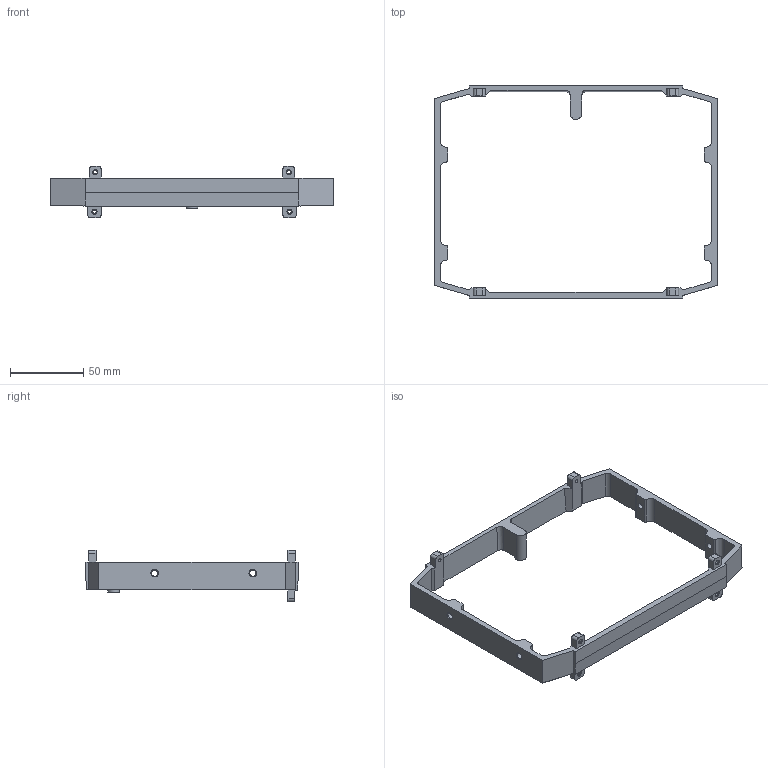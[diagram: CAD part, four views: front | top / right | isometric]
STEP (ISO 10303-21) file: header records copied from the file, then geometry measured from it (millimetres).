
FILE_DESCRIPTION(/* description */ ('STEP AP242 Edition 2','CAx-IF Rec.Pracs.---Representation and Presentation of Product Manufacturing Information (PMI)---4.0---2014-10-13','CAx-IF Rec.Pracs.---3D Tessellated Geometry---0.4---2014-09-14','2;1','CAx-IF Rec.Pracs.---User Defined Attributes---1.5---2016-08-15'),/* implementation_level */ '2;1');
FILE_NAME(/* name */ 'Assy_ForMFG - KD-B-105X_STERNUM_BRACE',/* time_stamp */ '2026-05-15T19:56:26Z',/* author */ (''),/* organization */ (''),/* preprocessor_version */ 'ST-DEVELOPER v20',/* originating_system */ 'ONSHAPE BY PTC INC, 1.215',/* authorisation */ ' ');
FILE_SCHEMA (('AP242_MANAGED_MODEL_BASED_3D_ENGINEERING_MIM_LF { 1 0 10303 442 3 1 4 }'));
Length unit declared in the file: metre
Products named in the file (1): KD-B-105X_STERNUM_BRACE
Bounding box: 193 x 145 x 35.1 mm (x, y, z)
Volume: 57199.3 mm3; surface area: 33069 mm2
Topology: 1 solids, 1 shells, 142 faces, 408 edges, 268 vertices
Faces by surface type: plane 83, cylinder 48, cone 11
Full cylindrical faces by diameter (mm): 2.5 x6, 3.5 x1, 4.2 x4, 8 x1
Entity records: 4471 total; most frequent: CARTESIAN_POINT 768, DIRECTION 767, ORIENTED_EDGE 742, EDGE_CURVE 371, LINE 261, VECTOR 261, VERTEX_POINT 254, AXIS2_PLACEMENT_3D 253
